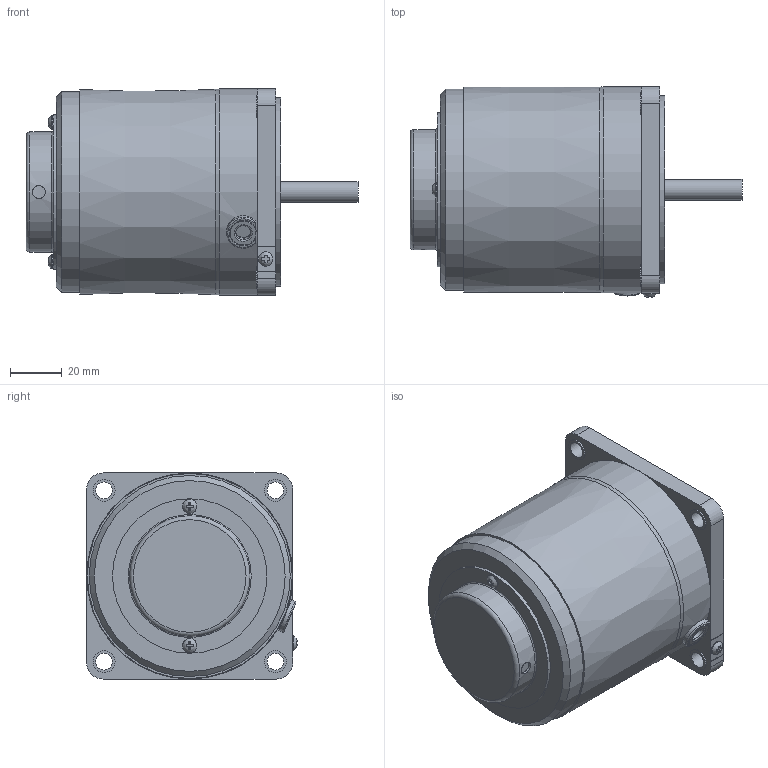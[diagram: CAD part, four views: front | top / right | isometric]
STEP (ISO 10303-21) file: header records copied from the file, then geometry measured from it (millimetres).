
FILE_DESCRIPTION(/* description */ (''),/* implementation_level */ '2;1');
FILE_NAME(/* name */ 'E:\도면작업\2016\0704) 미주향 SG 도면\3D MOTOR\SPEED CONTROL TYPE\SG8I(R)25S_-S12(24).stp',/* time_stamp */ '2017-08-21T11:08:40+09:00',/* author */ ('jy-jung'),/* organization */ (''),/* preprocessor_version */ 'ST-DEVELOPER v15.6',/* originating_system */ 'Autodesk Inventor 2015',/* authorisation */ '');
FILE_SCHEMA (('AUTOMOTIVE_DESIGN { 1 0 10303 214 3 1 1 }'));
Length unit declared in the file: millimetre
Products named in the file (1): 부품27
Bounding box: 128.8 x 81.76 x 80 mm (x, y, z)
Volume: 449353.1 mm3; surface area: 40274.1 mm2
Topology: 1 solids, 6 shells, 166 faces, 392 edges, 255 vertices
Faces by surface type: plane 104, cylinder 46, torus 10, bspline 3, cone 3
Full cylindrical faces by diameter (mm): 3 x2, 3.5 x2, 5 x1, 5.6 x3, 6 x1, 6.5 x4, 8 x1, 8.5 x4, 34 x1, 44.7 x1, 46.7 x1, 47.7 x1, 59.9 x1, 73 x1, 78 x1, 80 x1
Entity records: 5051 total; most frequent: CARTESIAN_POINT 1198, DIRECTION 734, ORIENTED_EDGE 700, EDGE_CURVE 350, AXIS2_PLACEMENT_3D 272, VERTEX_POINT 252, EDGE_LOOP 236, LINE 190
